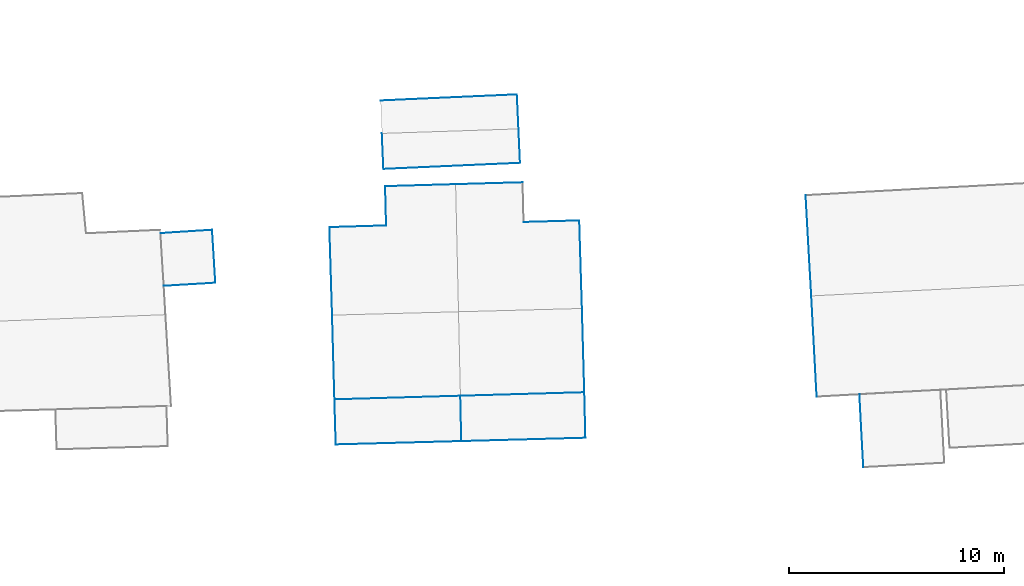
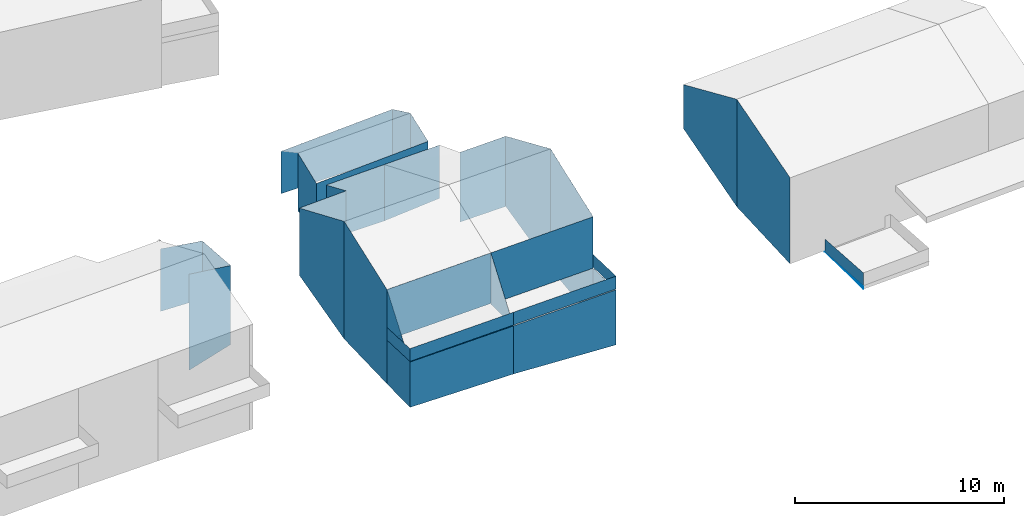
# Not in any storey, part 24 of 57: 40 walls.
"""IFC4 building model written with IfcOpenShell, lengths in metres."""

import ifcopenshell
import ifcopenshell.guid

model = None  # the IFC model being written
_history = None  # IfcOwnerHistory: only IFC2X3 demands one
_inside = {}  # id of a spatial element -> (the spatial element, [elements in it])
_under = {}  # id of a project, library or spatial element -> (it, [spatial elements below it])
_declared = {}  # id of a project -> (the project, [libraries it declares])
_typed = {}  # id of a type object -> (the type object, [elements of that type])
_made_of = {}  # id of a material, layer set ... -> (it, [elements and type objects made of it])


def new_model(schema):
    """Start an empty IFC model of exactly this schema.

    Asked for "IFC4X3", IfcOpenShell would pick the latest addendum, in which some entities
    have other attributes; the version numbers below select the first issue.
    IFC2X3 requires an IfcOwnerHistory on every rooted entity: one is made here for all.
    """
    global model, _history
    if schema == "IFC4X3":
        model = ifcopenshell.file(schema_version=(4, 3, 0, 0))
    else:
        model = ifcopenshell.file(schema=schema)
    _inside.clear()
    _under.clear()
    _declared.clear()
    _typed.clear()
    _made_of.clear()
    _history = None
    if model.schema == "IFC2X3":
        org = make("IfcOrganization", Name="unknown")
        user = make(
            "IfcPersonAndOrganization",
            ThePerson=make("IfcPerson", FamilyName="unknown"),
            TheOrganization=org,
        )
        app = make(
            "IfcApplication",
            ApplicationDeveloper=org,
            Version="unknown",
            ApplicationFullName="unknown",
            ApplicationIdentifier="unknown",
        )
        _history = make(
            "IfcOwnerHistory",
            OwningUser=user,
            OwningApplication=app,
            ChangeAction="ADDED",
            CreationDate=0,
        )
    return model


def make(cls, **values):
    """One entity of the class cls with the attributes given. An attribute that is None is left unset."""
    return model.create_entity(
        cls, **{name: value for name, value in values.items() if value is not None}
    )


def entity(cls, *values):
    """Any entity or typed value of the class cls, its attributes in the order of the schema. None: left unset."""
    e = model.create_entity(cls)
    for i, value in enumerate(values):
        if value is not None:
            e[i] = value
    return e


def rooted(cls, **values):
    """An entity with a GlobalId (a new one), such as an element, a storey or a relation."""
    return make(cls, GlobalId=ifcopenshell.guid.new(), OwnerHistory=_history, **values)


def si_unit(unit_type, name, prefix=None):
    """IfcSIUnit, for example si_unit("LENGTHUNIT", "METRE", prefix="MILLI")."""
    return make("IfcSIUnit", UnitType=unit_type, Prefix=prefix, Name=name)


def converted_unit(unit_type, name, factor, base, dimensions=None, offset=None):
    """IfcConversionBasedUnit, such as the inch: factor (a typed value) times the base unit."""
    return make(
        "IfcConversionBasedUnit"
        if offset is None
        else "IfcConversionBasedUnitWithOffset",
        ConversionOffset=offset,
        Dimensions=None
        if dimensions is None
        else entity("IfcDimensionalExponents", *dimensions),
        UnitType=unit_type,
        Name=name,
        ConversionFactor=make(
            "IfcMeasureWithUnit", ValueComponent=factor, UnitComponent=base
        ),
    )


def assignment(units):
    """IfcUnitAssignment: the units of a project."""
    return None if units is None else make("IfcUnitAssignment", Units=units)


def point(xyz):
    """IfcCartesianPoint."""
    return None if xyz is None else make("IfcCartesianPoint", Coordinates=xyz)


def direction(xyz):
    """IfcDirection."""
    return None if xyz is None else make("IfcDirection", DirectionRatios=xyz)


def frame(location, z_axis=None, x_axis=None):
    """IfcAxis2Placement3D, a coordinate frame: its origin and axes. An axis left out is left unset."""
    return make(
        "IfcAxis2Placement3D",
        Location=point(location),
        Axis=direction(z_axis),
        RefDirection=direction(x_axis),
    )


def origin():
    """The frame at (0, 0, 0) with its axes left unset."""
    return frame((0.0, 0.0, 0.0))


def place(relative_to, where):
    """IfcLocalPlacement: puts the frame where relative to a parent placement (None: the world)."""
    return make(
        "IfcLocalPlacement", PlacementRelTo=relative_to, RelativePlacement=where
    )


def context(
    kind, dimensions, precision=None, world=None, true_north=None, identifier=None
):
    """IfcGeometricRepresentationContext, for example the 3D "Model" context."""
    return make(
        "IfcGeometricRepresentationContext",
        ContextIdentifier=identifier,
        ContextType=kind,
        CoordinateSpaceDimension=dimensions,
        Precision=precision,
        WorldCoordinateSystem=world,
        TrueNorth=true_north,
    )


def subcontext(parent, identifier, kind, view, scale=None):
    """IfcGeometricRepresentationSubContext, for example "Body" below "Model"."""
    return make(
        "IfcGeometricRepresentationSubContext",
        ContextIdentifier=identifier,
        ContextType=kind,
        ParentContext=parent,
        TargetScale=scale,
        TargetView=view,
    )


def project(units=None, contexts=None):
    """IfcProject with its units and contexts."""
    return rooted(
        "IfcProject",
        Name="project",
        RepresentationContexts=contexts,
        UnitsInContext=assignment(units),
    )


def spatial(cls, under=None, at=None, **own):
    """A site, building, storey or space (cls), placed at a placement, below another one or the project."""
    s = rooted(cls, ObjectPlacement=at, **own)
    if under is not None:
        _under.setdefault(under.id(), (under, []))[1].append(s)
    return s


def faces_of(points, faces, orient=None, outer=None):
    """IfcFace entities. A face is a list of loops; a loop is a list of indices into points, from 0.

    orient and outer hold one flag for each loop. By default every Orientation is true, the
    first loop of a face is its IfcFaceOuterBound and the others are IfcFaceBound.
    """
    made = []
    for i, loops in enumerate(faces):
        bounds = []
        for j, loop in enumerate(loops):
            is_outer = j == 0 if outer is None else outer[i][j]
            bounds.append(
                make(
                    "IfcFaceOuterBound" if is_outer else "IfcFaceBound",
                    Bound=make("IfcPolyLoop", Polygon=[points[k] for k in loop]),
                    Orientation=True if orient is None else orient[i][j],
                )
            )
        made.append(make("IfcFace", Bounds=bounds))
    return made


def face_set(faces, orient=None, outer=None):
    """The faces of one IfcConnectedFaceSet. surface_model builds it on its shared points."""
    return ("IfcConnectedFaceSet", faces, orient, outer)


def surface_model(cls, points, shells):
    """IfcFaceBasedSurfaceModel or IfcShellBasedSurfaceModel (cls): surfaces that need not close."""
    shared = [point(p) for p in points]
    made = [make(c, CfsFaces=faces_of(shared, fs, o, b)) for c, fs, o, b in shells]
    if cls == "IfcFaceBasedSurfaceModel":
        return make(cls, FbsmFaces=made)
    return make(cls, SbsmBoundary=made)


def shape(context_of_items, identifier, shape_type, items):
    """IfcShapeRepresentation: the items that make up one representation, for example the "Body"."""
    return make(
        "IfcShapeRepresentation",
        ContextOfItems=context_of_items,
        RepresentationIdentifier=identifier,
        RepresentationType=shape_type,
        Items=items,
    )


def made_of(thing, what):
    """Note that an element or type object is made of a material, layer set ...; save() writes the relation."""
    if what is not None:
        _made_of.setdefault(what.id(), (what, []))[1].append(thing)
    return thing


def element(
    cls,
    number,
    at=None,
    inside=None,
    cuts=None,
    type_object=None,
    material=None,
    context=None,
    identifier="Body",
    shape_type=None,
    held_by="IfcProductDefinitionShape",
    body=None,
    shapes=None,
    **own,
):
    """One element of the class cls, such as IfcWall. Its Tag is "e" and its number.

    at: its placement. inside: the storey or other place that contains it. cuts: it is an
    opening in that element (IfcRelVoidsElement). A single representation is given by context,
    identifier, shape_type and body (its items); several are given by shapes. held_by: the class
    of the entity that holds the representations. save() writes the other relations.
    """
    e = rooted(cls, Tag="e%d" % number, ObjectPlacement=at, **own)
    if body is not None:
        shapes = [shape(context, identifier, shape_type, body)]
    if shapes is not None:
        e.Representation = make(held_by, Representations=shapes)
    if inside is not None:
        _inside.setdefault(inside.id(), (inside, []))[1].append(e)
    if cuts is not None:
        rooted(
            "IfcRelVoidsElement", RelatingBuildingElement=cuts, RelatedOpeningElement=e
        )
    if type_object is not None:
        _typed.setdefault(type_object.id(), (type_object, []))[1].append(e)
    return made_of(e, material)


def aggregate(whole, parts):
    """IfcRelAggregates: a whole, such as a stair, and the parts it consists of."""
    return rooted("IfcRelAggregates", RelatingObject=whole, RelatedObjects=parts)


def save(model, path):
    """Write the relations noted so far, then the file.

    IfcRelAggregates (storeys below a building ...), IfcRelContainedInSpatialStructure (elements
    in a storey), IfcRelDefinesByType, IfcRelAssociatesMaterial and IfcRelDeclares: one each for
    every whole, place, type object, material and project.
    """
    for whole, parts in _under.values():
        aggregate(whole, parts)
    for where, things in _inside.values():
        rooted(
            "IfcRelContainedInSpatialStructure",
            RelatedElements=things,
            RelatingStructure=where,
        )
    for kind, things in _typed.values():
        rooted("IfcRelDefinesByType", RelatedObjects=things, RelatingType=kind)
    for what, things in _made_of.values():
        rooted("IfcRelAssociatesMaterial", RelatedObjects=things, RelatingMaterial=what)
    for by, libraries in _declared.values():
        rooted("IfcRelDeclares", RelatingContext=by, RelatedDefinitions=libraries)
    model.write(path)


model = new_model("IFC4")

# Units and contexts
model_context = context("Model", 3, precision=1e-05, world=origin())
body_context = subcontext(model_context, "Body", "Model", "MODEL_VIEW")
ifc_project = project(units=[converted_unit("PLANEANGLEUNIT", "DEGREE", entity("IfcRatioMeasure", 0.0174532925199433), si_unit("PLANEANGLEUNIT", "RADIAN"), dimensions=[0, 0, 0, 0, 0, 0, 0]), si_unit("AREAUNIT", "SQUARE_METRE"), si_unit("LENGTHUNIT", "METRE")], contexts=[model_context])

# Site, building
site_placement = place(None, origin())
site = spatial("IfcSite", under=ifc_project, at=site_placement, Name="_site")
building_1_placement = place(site_placement, origin())
building_1 = spatial("IfcBuilding", under=site, at=building_1_placement, Name="_building")

# Walls
wall_1_placement = place(building_1_placement, origin())
element("IfcWall", 1, at=wall_1_placement, inside=building_1, Name="Wall", PredefinedType="NOTDEFINED", context=body_context, shape_type="SurfaceModel", body=[
    surface_model("IfcFaceBasedSurfaceModel", [(214.115, 69.536, 109.47), (217.379, 69.629, 109.47), (217.379, 69.629, 106.172), (214.115, 69.536, 106.241)], [face_set([[[0, 1, 2, 3]]])]),
])
wall_2_placement = place(building_1_placement, origin())
element("IfcWall", 2, at=wall_2_placement, inside=building_1, Name="Wall", PredefinedType="NOTDEFINED", context=body_context, shape_type="SurfaceModel", body=[
    surface_model("IfcFaceBasedSurfaceModel", [(214.162, 67.713, 110.22), (214.115, 69.536, 109.47), (214.115, 69.536, 106.241), (214.162, 67.713, 106.05)], [face_set([[[0, 1, 2, 3]]])]),
])
wall_3_placement = place(building_1_placement, origin())
element("IfcWall", 3, at=wall_3_placement, inside=building_1, Name="Wall", PredefinedType="NOTDEFINED", context=body_context, shape_type="SurfaceModel", body=[
    surface_model("IfcFaceBasedSurfaceModel", [(211.529, 67.635, 110.18), (214.162, 67.713, 110.22), (214.162, 67.713, 106.05), (211.529, 67.635, 106.246)], [face_set([[[0, 1, 2, 3]]])]),
])
wall_4_placement = place(building_1_placement, origin())
element("IfcWall", 4, at=wall_4_placement, inside=building_1, Name="Wall", PredefinedType="NOTDEFINED", context=body_context, shape_type="SurfaceModel", body=[
    surface_model("IfcFaceBasedSurfaceModel", [(211.654, 63.559, 111.83), (211.529, 67.635, 110.18), (211.529, 67.635, 106.246), (211.654, 63.559, 104.95)], [face_set([[[0, 1, 2, 3]]])]),
])
wall_5_placement = place(building_1_placement, origin())
element("IfcWall", 5, at=wall_5_placement, inside=building_1, Name="Wall", PredefinedType="NOTDEFINED", context=body_context, shape_type="SurfaceModel", body=[
    surface_model("IfcFaceBasedSurfaceModel", [(211.762, 59.644, 110.18), (211.654, 63.559, 111.83), (211.654, 63.559, 104.95), (211.762, 59.644, 104.667)], [face_set([[[0, 1, 2, 3]]])]),
])
wall_6_placement = place(building_1_placement, origin())
element("IfcWall", 6, at=wall_6_placement, inside=building_1, Name="Wall", PredefinedType="NOTDEFINED", context=body_context, shape_type="SurfaceModel", body=[
    surface_model("IfcFaceBasedSurfaceModel", [(217.602, 59.81, 110.18), (211.762, 59.644, 110.18), (211.762, 59.644, 107.22), (217.602, 59.81, 107.22)], [face_set([[[0, 1, 2, 3]]])]),
])
wall_7_placement = place(building_1_placement, origin())
element("IfcWall", 7, at=wall_7_placement, inside=building_1, Name="Wall", PredefinedType="NOTDEFINED", context=body_context, shape_type="SurfaceModel", body=[
    surface_model("IfcFaceBasedSurfaceModel", [(211.823, 57.552, 107.22), (211.762, 59.644, 107.22), (211.762, 59.644, 104.667), (211.823, 57.552, 104.533)], [face_set([[[0, 1, 2, 3]]])]),
])
wall_8_placement = place(building_1_placement, origin())
element("IfcWall", 8, at=wall_8_placement, inside=building_1, Name="Wall", PredefinedType="NOTDEFINED", context=body_context, shape_type="SurfaceModel", body=[
    surface_model("IfcFaceBasedSurfaceModel", [(217.65, 57.706, 107.22), (211.823, 57.552, 107.22), (211.823, 57.552, 104.533), (217.65, 57.706, 104.357)], [face_set([[[0, 1, 2, 3]]])]),
])
wall_9_placement = place(building_1_placement, origin())
element("IfcWall", 9, at=wall_9_placement, inside=building_1, Name="Wall", PredefinedType="NOTDEFINED", context=body_context, shape_type="SurfaceModel", body=[
    surface_model("IfcFaceBasedSurfaceModel", [(211.823, 57.552, 107.186), (211.762, 59.644, 110.18), (211.762, 59.644, 104.667), (211.823, 57.552, 104.533)], [face_set([[[0, 1, 2, 3]]])]),
])
wall_10_placement = place(building_1_placement, origin())
element("IfcWall", 10, at=wall_10_placement, inside=building_1, Name="Wall", PredefinedType="NOTDEFINED", context=body_context, shape_type="SurfaceModel", body=[
    surface_model("IfcFaceBasedSurfaceModel", [(217.65, 57.706, 107.17), (211.823, 57.552, 107.186), (211.823, 57.552, 104.533), (217.65, 57.706, 104.357)], [face_set([[[0, 1, 2, 3]]])]),
])
wall_11_placement = place(building_1_placement, origin())
element("IfcWall", 11, at=wall_11_placement, inside=building_1, Name="Wall", PredefinedType="NOTDEFINED", context=body_context, shape_type="SurfaceModel", body=[
    surface_model("IfcFaceBasedSurfaceModel", [(217.602, 59.81, 110.18), (217.65, 57.706, 107.17), (217.65, 57.706, 107.12), (217.602, 59.81, 107.17)], [face_set([[[0, 1, 2, 3]]])]),
])
wall_12_placement = place(building_1_placement, origin())
element("IfcWall", 12, at=wall_12_placement, inside=building_1, Name="Wall", PredefinedType="NOTDEFINED", context=body_context, shape_type="SurfaceModel", body=[
    surface_model("IfcFaceBasedSurfaceModel", [(211.762, 59.644, 110.18), (217.602, 59.81, 110.18), (217.602, 59.81, 107.22), (211.762, 59.644, 107.22)], [face_set([[[0, 1, 2, 3]]])]),
])
wall_13_placement = place(building_1_placement, origin())
element("IfcWall", 13, at=wall_13_placement, inside=building_1, Name="Wall", PredefinedType="NOTDEFINED", context=body_context, shape_type="SurfaceModel", body=[
    surface_model("IfcFaceBasedSurfaceModel", [(211.823, 57.552, 107.22), (211.762, 59.644, 107.22), (211.762, 59.644, 107.97), (211.823, 57.552, 107.97)], [face_set([[[0, 1, 2, 3]]])]),
])
wall_14_placement = place(building_1_placement, origin())
element("IfcWall", 14, at=wall_14_placement, inside=building_1, Name="Wall", PredefinedType="NOTDEFINED", context=body_context, shape_type="SurfaceModel", body=[
    surface_model("IfcFaceBasedSurfaceModel", [(217.65, 57.706, 107.22), (211.823, 57.552, 107.22), (211.823, 57.552, 107.97), (217.65, 57.706, 107.97)], [face_set([[[0, 1, 2, 3]]])]),
])
wall_15_placement = place(building_1_placement, origin())
element("IfcWall", 15, at=wall_15_placement, inside=building_1, Name="Wall", PredefinedType="NOTDEFINED", context=body_context, shape_type="SurfaceModel", body=[
    surface_model("IfcFaceBasedSurfaceModel", [(211.823, 57.552, 107.22), (211.762, 59.644, 107.22), (211.762, 59.644, 107.97), (211.823, 57.552, 107.97)], [face_set([[[0, 1, 2, 3]]])]),
])
wall_16_placement = place(building_1_placement, origin())
element("IfcWall", 16, at=wall_16_placement, inside=building_1, Name="Wall", PredefinedType="NOTDEFINED", context=body_context, shape_type="SurfaceModel", body=[
    surface_model("IfcFaceBasedSurfaceModel", [(217.65, 57.706, 107.22), (211.823, 57.552, 107.22), (211.823, 57.552, 107.97), (217.65, 57.706, 107.97)], [face_set([[[0, 1, 2, 3]]])]),
])

# Building
building_2_placement = place(site_placement, origin())
building_2 = spatial("IfcBuilding", under=site, at=building_2_placement, Name="_building")

# Walls
wall_17_placement = place(building_2_placement, origin())
element("IfcWall", 17, at=wall_17_placement, inside=building_2, Name="Wall", PredefinedType="NOTDEFINED", context=body_context, shape_type="SurfaceModel", body=[
    surface_model("IfcFaceBasedSurfaceModel", [(214.034, 70.338, 109.1), (213.962, 71.991, 109.9), (213.962, 71.991, 106.498), (214.034, 70.338, 106.325)], [face_set([[[0, 1, 2, 3]]])]),
])
wall_18_placement = place(building_2_placement, origin())
element("IfcWall", 18, at=wall_18_placement, inside=building_2, Name="Wall", PredefinedType="NOTDEFINED", context=body_context, shape_type="SurfaceModel", body=[
    surface_model("IfcFaceBasedSurfaceModel", [(220.374, 70.62, 109.18), (214.034, 70.338, 109.1), (214.034, 70.338, 106.325), (220.374, 70.62, 106.437)], [face_set([[[0, 1, 2, 3]]])]),
])
wall_19_placement = place(building_2_placement, origin())
element("IfcWall", 19, at=wall_19_placement, inside=building_2, Name="Wall", PredefinedType="NOTDEFINED", context=body_context, shape_type="SurfaceModel", body=[
    surface_model("IfcFaceBasedSurfaceModel", [(220.301, 72.202, 109.9), (220.374, 70.62, 109.18), (220.374, 70.62, 106.437), (220.301, 72.202, 106.514)], [face_set([[[0, 1, 2, 3]]])]),
])
wall_20_placement = place(building_2_placement, origin())
element("IfcWall", 20, at=wall_20_placement, inside=building_2, Name="Wall", PredefinedType="NOTDEFINED", context=body_context, shape_type="SurfaceModel", body=[
    surface_model("IfcFaceBasedSurfaceModel", [(220.228, 73.795, 109.18), (220.301, 72.202, 109.9), (220.301, 72.202, 106.514), (220.228, 73.795, 106.421)], [face_set([[[0, 1, 2, 3]]])]),
])
wall_21_placement = place(building_2_placement, origin())
element("IfcWall", 21, at=wall_21_placement, inside=building_2, Name="Wall", PredefinedType="NOTDEFINED", context=body_context, shape_type="SurfaceModel", body=[
    surface_model("IfcFaceBasedSurfaceModel", [(213.898, 73.513, 109.1), (220.228, 73.795, 109.18), (220.228, 73.795, 106.421), (213.898, 73.513, 106.627)], [face_set([[[0, 1, 2, 3]]])]),
])

# Building
building_3_placement = place(site_placement, origin())
building_3 = spatial("IfcBuilding", under=site, at=building_3_placement, Name="_building")

# Walls
wall_22_placement = place(building_3_placement, origin())
element("IfcWall", 22, at=wall_22_placement, inside=building_3, Name="Wall", PredefinedType="NOTDEFINED", context=body_context, shape_type="SurfaceModel", body=[
    surface_model("IfcFaceBasedSurfaceModel", [(220.54, 67.874, 110.14), (223.123, 67.944, 110.14), (223.123, 67.944, 106.031), (220.54, 67.874, 106.056)], [face_set([[[0, 1, 2, 3]]])]),
])
wall_23_placement = place(building_3_placement, origin())
element("IfcWall", 23, at=wall_23_placement, inside=building_3, Name="Wall", PredefinedType="NOTDEFINED", context=body_context, shape_type="SurfaceModel", body=[
    surface_model("IfcFaceBasedSurfaceModel", [(223.408, 57.861, 107.17), (217.65, 57.706, 107.17), (217.65, 57.706, 104.357), (223.408, 57.861, 103.95)], [face_set([[[0, 1, 2, 3]]])]),
])
wall_24_placement = place(building_3_placement, origin())
element("IfcWall", 24, at=wall_24_placement, inside=building_3, Name="Wall", PredefinedType="NOTDEFINED", context=body_context, shape_type="SurfaceModel", body=[
    surface_model("IfcFaceBasedSurfaceModel", [(223.357, 59.973, 107.17), (223.408, 57.861, 107.17), (223.408, 57.861, 103.95), (223.357, 59.973, 104.15)], [face_set([[[0, 1, 2, 3]]])]),
])
wall_25_placement = place(building_3_placement, origin())
element("IfcWall", 25, at=wall_25_placement, inside=building_3, Name="Wall", PredefinedType="NOTDEFINED", context=body_context, shape_type="SurfaceModel", body=[
    surface_model("IfcFaceBasedSurfaceModel", [(223.357, 59.973, 110.18), (217.602, 59.81, 110.18), (217.602, 59.81, 107.17), (223.357, 59.973, 107.17)], [face_set([[[0, 1, 2, 3]]])]),
])
wall_26_placement = place(building_3_placement, origin())
element("IfcWall", 26, at=wall_26_placement, inside=building_3, Name="Wall", PredefinedType="NOTDEFINED", context=body_context, shape_type="SurfaceModel", body=[
    surface_model("IfcFaceBasedSurfaceModel", [(223.248, 63.868, 111.83), (223.357, 59.973, 110.18), (223.357, 59.973, 104.15), (223.248, 63.868, 104.829)], [face_set([[[0, 1, 2, 3]]])]),
])
wall_27_placement = place(building_3_placement, origin())
element("IfcWall", 27, at=wall_27_placement, inside=building_3, Name="Wall", PredefinedType="NOTDEFINED", context=body_context, shape_type="SurfaceModel", body=[
    surface_model("IfcFaceBasedSurfaceModel", [(223.123, 67.944, 110.14), (223.248, 63.868, 111.83), (223.248, 63.868, 104.829), (223.123, 67.944, 106.031)], [face_set([[[0, 1, 2, 3]]])]),
])
wall_28_placement = place(building_3_placement, origin())
element("IfcWall", 28, at=wall_28_placement, inside=building_3, Name="Wall", PredefinedType="NOTDEFINED", context=body_context, shape_type="SurfaceModel", body=[
    surface_model("IfcFaceBasedSurfaceModel", [(217.379, 69.629, 109.47), (220.493, 69.716, 109.47), (220.493, 69.716, 106.356), (217.379, 69.629, 106.172)], [face_set([[[0, 1, 2, 3]]])]),
])
wall_29_placement = place(building_3_placement, origin())
element("IfcWall", 29, at=wall_29_placement, inside=building_3, Name="Wall", PredefinedType="NOTDEFINED", context=body_context, shape_type="SurfaceModel", body=[
    surface_model("IfcFaceBasedSurfaceModel", [(223.408, 57.861, 107.22), (217.65, 57.706, 107.22), (217.65, 57.706, 107.97), (223.408, 57.861, 107.97)], [face_set([[[0, 1, 2, 3]]])]),
])
wall_30_placement = place(building_3_placement, origin())
element("IfcWall", 30, at=wall_30_placement, inside=building_3, Name="Wall", PredefinedType="NOTDEFINED", context=body_context, shape_type="SurfaceModel", body=[
    surface_model("IfcFaceBasedSurfaceModel", [(223.357, 59.973, 107.22), (223.408, 57.861, 107.22), (223.408, 57.861, 107.97), (223.357, 59.973, 107.97)], [face_set([[[0, 1, 2, 3]]])]),
])
wall_31_placement = place(building_3_placement, origin())
element("IfcWall", 31, at=wall_31_placement, inside=building_3, Name="Wall", PredefinedType="NOTDEFINED", context=body_context, shape_type="SurfaceModel", body=[
    surface_model("IfcFaceBasedSurfaceModel", [(223.408, 57.861, 107.22), (217.65, 57.706, 107.22), (217.65, 57.706, 107.97), (223.408, 57.861, 107.97)], [face_set([[[0, 1, 2, 3]]])]),
])
wall_32_placement = place(building_3_placement, origin())
element("IfcWall", 32, at=wall_32_placement, inside=building_3, Name="Wall", PredefinedType="NOTDEFINED", context=body_context, shape_type="SurfaceModel", body=[
    surface_model("IfcFaceBasedSurfaceModel", [(223.357, 59.973, 107.22), (223.408, 57.861, 107.22), (223.408, 57.861, 107.97), (223.357, 59.973, 107.97)], [face_set([[[0, 1, 2, 3]]])]),
])

# Building
building_4_placement = place(site_placement, origin())
building_4 = spatial("IfcBuilding", under=site, at=building_4_placement, Name="_building")

# Walls
wall_33_placement = place(building_4_placement, origin())
element("IfcWall", 33, at=wall_33_placement, inside=building_4, Name="Wall", PredefinedType="NOTDEFINED", context=body_context, shape_type="SurfaceModel", body=[
    surface_model("IfcFaceBasedSurfaceModel", [(206.235, 65.057, 110.24), (203.84, 64.913, 110.65), (203.84, 64.913, 105.024), (206.235, 65.057, 105.616)], [face_set([[[0, 1, 2, 3]]])]),
])
wall_34_placement = place(building_4_placement, origin())
element("IfcWall", 34, at=wall_34_placement, inside=building_4, Name="Wall", PredefinedType="NOTDEFINED", context=body_context, shape_type="SurfaceModel", body=[
    surface_model("IfcFaceBasedSurfaceModel", [(206.083, 67.512, 110.24), (206.235, 65.057, 110.24), (206.235, 65.057, 105.616), (206.083, 67.512, 106.856)], [face_set([[[0, 1, 2, 3]]])]),
])
wall_35_placement = place(building_4_placement, origin())
element("IfcWall", 35, at=wall_35_placement, inside=building_4, Name="Wall", PredefinedType="NOTDEFINED", context=body_context, shape_type="SurfaceModel", body=[
    surface_model("IfcFaceBasedSurfaceModel", [(203.688, 67.358, 110.71), (206.083, 67.512, 110.24), (206.083, 67.512, 106.856), (203.688, 67.358, 107.049)], [face_set([[[0, 1, 2, 3]]])]),
])

# Building
building_5_placement = place(site_placement, origin())
building_5 = spatial("IfcBuilding", under=site, at=building_5_placement, Name="_building")

# Walls
wall_36_placement = place(building_5_placement, origin())
element("IfcWall", 36, at=wall_36_placement, inside=building_5, Name="Wall", PredefinedType="NOTDEFINED", context=body_context, shape_type="SurfaceModel", body=[
    surface_model("IfcFaceBasedSurfaceModel", [(236.304, 56.498, 103.72), (236.123, 59.884, 103.72), (236.123, 59.884, 103.709), (236.304, 56.498, 103.517)], [face_set([[[0, 1, 2, 3]]])]),
])
wall_37_placement = place(building_5_placement, origin())
element("IfcWall", 37, at=wall_37_placement, inside=building_5, Name="Wall", PredefinedType="NOTDEFINED", context=body_context, shape_type="SurfaceModel", body=[
    surface_model("IfcFaceBasedSurfaceModel", [(233.888, 64.45, 110.65), (233.627, 69.118, 108.77), (233.627, 69.118, 106.204), (233.888, 64.45, 104.365)], [face_set([[[0, 1, 2, 3]]])]),
])
wall_38_placement = place(building_5_placement, origin())
element("IfcWall", 38, at=wall_38_placement, inside=building_5, Name="Wall", PredefinedType="NOTDEFINED", context=body_context, shape_type="SurfaceModel", body=[
    surface_model("IfcFaceBasedSurfaceModel", [(234.139, 59.771, 108.8), (233.888, 64.45, 110.65), (233.888, 64.45, 104.365), (234.139, 59.771, 103.765)], [face_set([[[0, 1, 2, 3]]])]),
])
for number, where, name in (
    (39, (0.0, 0.0, 0.0), "Wall"),
    (40, (0.0, 0.0, 0.0), "Wall"),
):
    element("IfcWall", number, at=place(building_5_placement, frame(where)), inside=building_5, Name=name, PredefinedType="NOTDEFINED", context=body_context, shape_type="SurfaceModel", body=[
        surface_model("IfcFaceBasedSurfaceModel", [(236.304, 56.498, 103.72), (236.123, 59.884, 103.72), (236.123, 59.884, 104.47), (236.304, 56.498, 104.47)], [face_set([[[0, 1, 2, 3]]])]),
    ])

save(model, "model.ifc")
